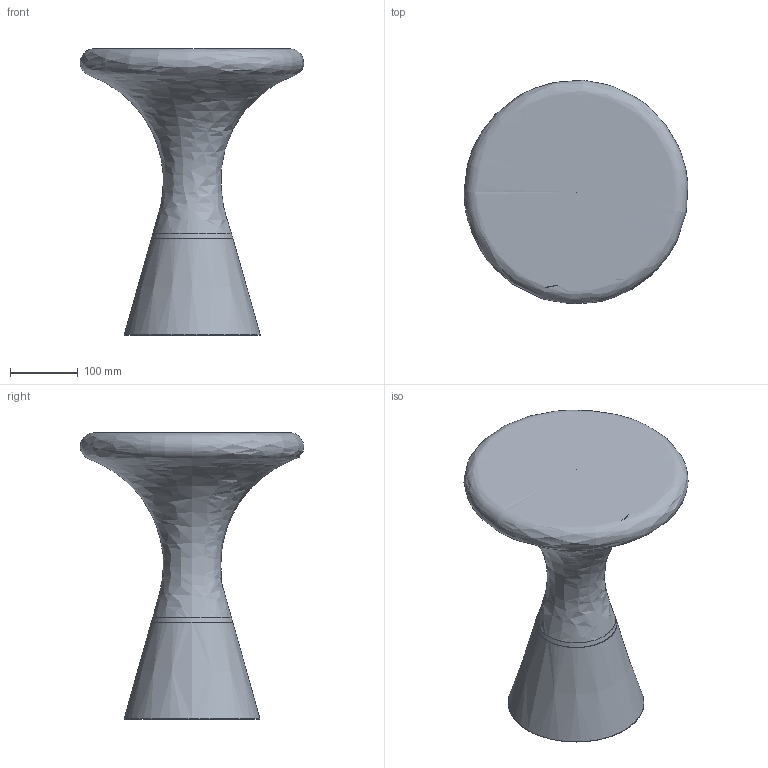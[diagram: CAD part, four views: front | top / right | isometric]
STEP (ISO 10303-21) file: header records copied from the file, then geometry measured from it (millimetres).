
FILE_DESCRIPTION(/* description */ (''),/* implementation_level */ '2;1');
FILE_NAME(/* name */ 'SkLO_TB111_JoinTable_Small',/* time_stamp */ '2024-12-16T11:08:40+01:00',/* author */ (''),/* organization */ (''),/* preprocessor_version */ 'ST-DEVELOPER v16.5',/* originating_system */ 'Rhino 7.34',/* authorisation */ '');
FILE_SCHEMA (('CONFIG_CONTROL_DESIGN'));
Length unit declared in the file: millimetre
Products named in the file (1): Document
Bounding box: 329.4 x 329.26 x 421.01 mm (x, y, z)
Volume: 6037673.1 mm3; surface area: 562212.6 mm2
Topology: 3 solids, 3 shells, 18 faces, 39 edges, 21 vertices
Faces by surface type: bspline 16, cylinder 2
Full cylindrical faces by diameter (mm): 84 x2
Entity records: 1059 total; most frequent: CARTESIAN_POINT 773, ORIENTED_EDGE 70, EDGE_CURVE 35, VERTEX_POINT 21, ADVANCED_FACE 18, FACE_OUTER_BOUND 18, EDGE_LOOP 18, ORGANIZATION 7
